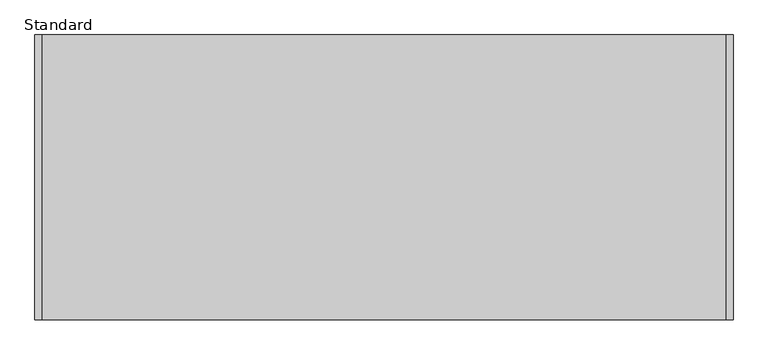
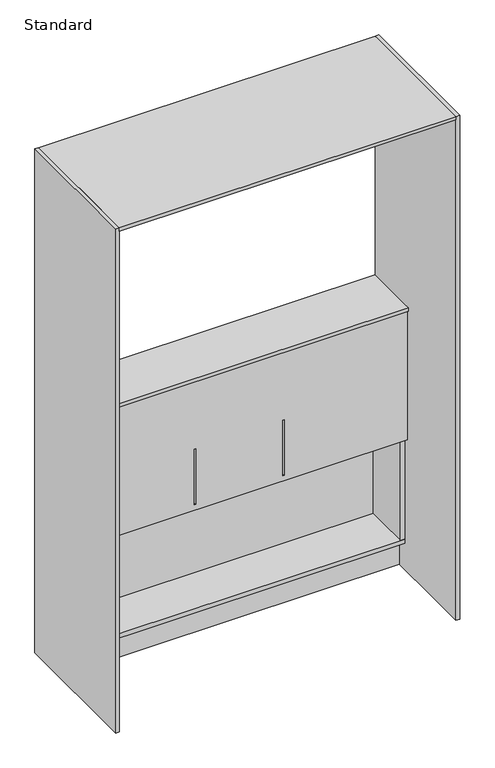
"""IFC4 building model written with IfcOpenShell, lengths in millimetres: furniture geometry, Locker-Bay-Duracube-Fixed Ironing Board Unit : Standard."""

from ifc_helpers import new_model, si_unit, frame, origin, origin_with_axes, place, context, project, spatial, polyline, outline, extrude, source, transform, mapped, element, save


def standard_0a05bd14(model_context):
    return source(origin(), model_context, "Body", "SweptSolid", [
        extrude(outline(polyline([(987.0, 644.7003264), (987.0, -555.2996736), (500.0, -555.2996736), (500.0, 644.7003264), (987.0, 644.7003264)]), holes=[polyline([(729.0, -115.2996736), (729.0, -110.2996736), (520.0, -110.2996736), (520.0, -115.2996736), (729.0, -115.2996736)]), polyline([(729.0, 199.7003264), (729.0, 204.7003264), (520.0, 204.7003264), (520.0, 199.7003264), (729.0, 199.7003264)])]), frame((0.0, -200.0, 0.0), z_axis=(0.0, 1.0, 0.0), x_axis=(0.0, 0.0, 1.0)), (0.0, 0.0, 1.0), 13.0),
        extrude(outline(polyline([(628.7003264, -16.0), (628.7003264, -185.0), (-539.2996736, -185.0), (-539.2996736, -16.0), (628.7003264, -16.0)])), frame((0.0, 0.0, 971.0), z_axis=(0.0, 0.0, 1.0), x_axis=(1.0, 0.0, 0.0)), (0.0, 0.0, 1.0), 16.0),
        extrude(outline(polyline([(628.7003264, -16.0), (628.7003264, -185.0), (-539.2996736, -185.0), (-539.2996736, -16.0), (628.7003264, -16.0)])), frame((0.0, 0.0, 867.0), z_axis=(0.0, 0.0, 1.0), x_axis=(1.0, 0.0, 0.0)), (0.0, 0.0, 1.0), 16.0),
        extrude(outline(polyline([(628.7003264, 0.0), (628.7003264, -16.0), (-539.2996736, -16.0), (-539.2996736, 0.0), (628.7003264, 0.0)])), frame((0.0, 0.0, 116.0), z_axis=(0.0, 0.0, 1.0), x_axis=(1.0, 0.0, 0.0)), (0.0, 0.0, 1.0), 871.0),
        extrude(outline(polyline([(644.7003264, 0.0), (644.7003264, -185.0), (-555.2996736, -185.0), (-555.2996736, 0.0), (644.7003264, 0.0)])), frame((0.0, 0.0, 100.0), z_axis=(0.0, 0.0, 1.0), x_axis=(1.0, 0.0, 0.0)), (0.0, 0.0, 1.0), 16.0),
        extrude(outline(polyline([(644.7003264, 0.0), (644.7003264, -185.0), (628.7003264, -185.0), (628.7003264, 0.0), (644.7003264, 0.0)])), frame((0.0, 0.0, 116.0), z_axis=(0.0, 0.0, 1.0), x_axis=(1.0, 0.0, 0.0)), (0.0, 0.0, 1.0), 871.0),
        extrude(outline(polyline([(-539.2996736, 0.0), (-539.2996736, -185.0), (-555.2996736, -185.0), (-555.2996736, 0.0), (-539.2996736, 0.0)])), frame((0.0, 0.0, 116.0), z_axis=(0.0, 0.0, 1.0), x_axis=(1.0, 0.0, 0.0)), (0.0, 0.0, 1.0), 871.0),
        extrude(outline(polyline([(644.7003264, -137.0), (644.7003264, -150.0), (-555.2996736, -150.0), (-555.2996736, -137.0), (644.7003264, -137.0)])), origin_with_axes(), (0.0, 0.0, 1.0), 100.0),
        extrude(outline(polyline([(644.7003264, 0.0), (644.7003264, -205.0), (-555.2996736, -205.0), (-555.2996736, 0.0), (644.7003264, 0.0)])), frame((0.0, 0.0, 987.0), z_axis=(0.0, 0.0, 1.0), x_axis=(1.0, 0.0, 0.0)), (0.0, 0.0, 1.0), 13.0),
        extrude(outline(polyline([(644.7003264, 0.0), (644.7003264, -137.0), (-555.2996736, -137.0), (-555.2996736, 0.0), (644.7003264, 0.0)]), holes=[polyline([(-539.2996736, -16.0), (-539.2996736, -121.0), (628.7003264, -121.0), (628.7003264, -16.0), (-539.2996736, -16.0)])]), origin_with_axes(), (0.0, 0.0, 1.0), 100.0),
        extrude(outline(polyline([(644.7003264, 0.0), (644.7003264, -500.0), (-555.2996736, -500.0), (-555.2996736, 0.0), (644.7003264, 0.0)])), frame((0.0, 0.0, 1887.0), z_axis=(0.0, 0.0, 1.0), x_axis=(1.0, 0.0, 0.0)), (0.0, 0.0, 1.0), 13.0),
        extrude(outline(polyline([(657.7003264, 0.0), (657.7003264, -500.0), (644.7003264, -500.0), (644.7003264, 0.0), (657.7003264, 0.0)])), origin_with_axes(), (0.0, 0.0, 1.0), 1900.0),
        extrude(outline(polyline([(-555.2996736, 0.0), (-555.2996736, -500.0), (-568.2996736, -500.0), (-568.2996736, 0.0), (-555.2996736, 0.0)])), origin_with_axes(), (0.0, 0.0, 1.0), 1900.0),
    ])


if __name__ == "__main__":
    model = new_model("IFC4")
    model_context = context("Model", 3, world=origin())
    ifc_project = project(units=[si_unit("LENGTHUNIT", "METRE", prefix="MILLI")], contexts=[model_context])
    site = spatial("IfcSite", under=ifc_project)
    building = spatial("IfcBuilding", under=site)
    placement = place(None, origin())
    standard_shape = standard_0a05bd14(model_context)
    element("IfcFurniture", 1, ObjectType="Locker-Bay-Duracube-Fixed Ironing Board Unit : Standard", at=placement, inside=building, context=model_context, shape_type="MappedRepresentation", body=[
        mapped(standard_shape, transform((0.0, 0.0, 0.0), x_axis=(1.0, 0.0, 0.0), y_axis=(0.0, 1.0, 0.0), z_axis=(0.0, 0.0, 1.0))),
    ])
    save(model, "model.ifc")
